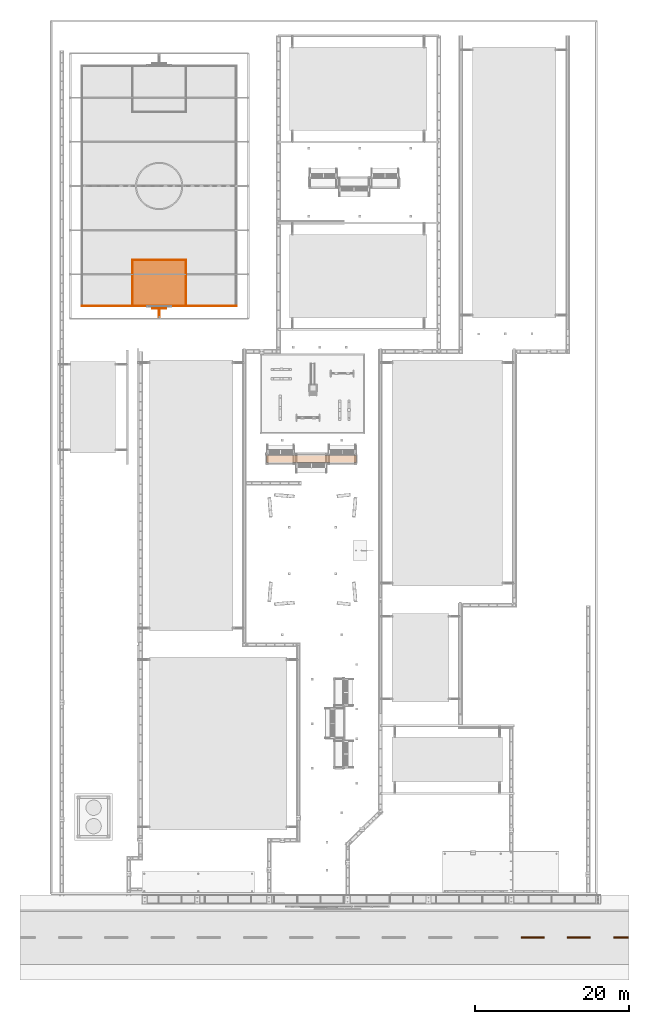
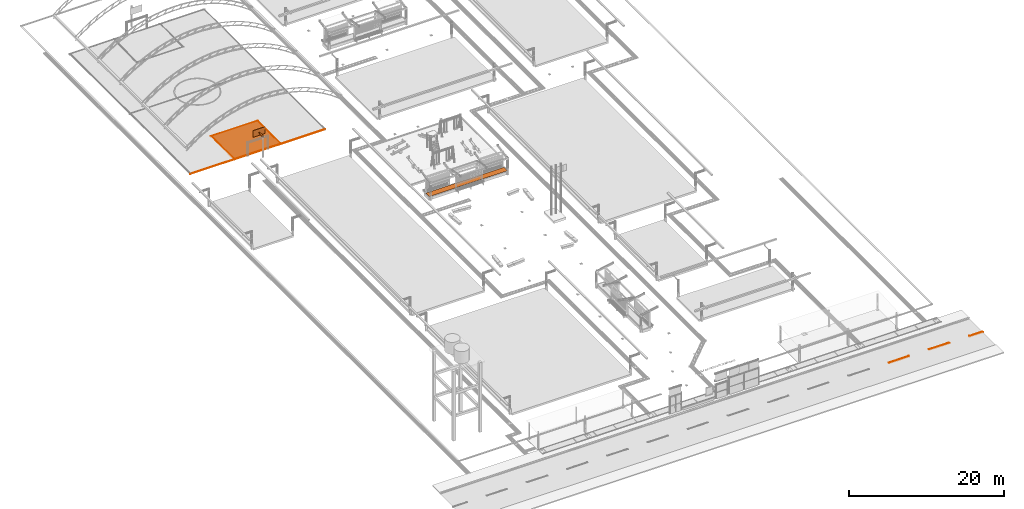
# One storey, part 88 of 90: 11 proxies.
"""IFC2X3 building model written with IfcOpenShell, lengths in metres."""

from ifc_helpers import new_model, si_unit, origin, origin_with_axes, place, context, subcontext, project, spatial, faceted_brep, element, save


model = new_model("IFC2X3")

# Units and contexts
model_context = context("Model", 3, precision=1e-05, world=origin_with_axes())
body_context = subcontext(model_context, "Body", "Model", "MODEL_VIEW")
ifc_project = project(units=[si_unit("LENGTHUNIT", "METRE"), si_unit("AREAUNIT", "SQUARE_METRE"), si_unit("VOLUMEUNIT", "CUBIC_METRE"), si_unit("PLANEANGLEUNIT", "RADIAN")], contexts=[model_context])

# Site, building, storey
site_placement = place(None, origin_with_axes())
site = spatial("IfcSite", under=ifc_project, at=site_placement, Name="Predio Los Mangos - Morales, San Martín", CompositionType="ELEMENT")
building_placement = place(site_placement, origin())
building = spatial("IfcBuilding", under=site, at=building_placement, Name="Hogar de Refugio Temporal", CompositionType="ELEMENT")
storey_placement = place(building_placement, origin())
storey = spatial("IfcBuildingStorey", under=building, at=storey_placement, Name="NIVEL 1 (NPT +0.00)", CompositionType="ELEMENT", Elevation=0.0)

# Proxies
proxy_1_placement = place(storey_placement, origin())
element("IfcBuildingElementProxy", 1, at=proxy_1_placement, inside=storey, Name="linea_carril", ObjectType="Losa deportiva y vía", context=body_context, shape_type="Brep", body=[
    faceted_brep([(62.0, 12.22, 0.02), (62.0, 12.38, 0.02), (65.0, 12.38, 0.02), (65.0, 12.22, 0.02), (62.0, 12.22, 0.025), (65.0, 12.22, 0.025), (65.0, 12.38, 0.025), (62.0, 12.38, 0.025)], [[[0, 1, 2, 3]], [[4, 5, 6, 7]], [[0, 3, 5, 4]], [[3, 2, 6, 5]], [[2, 1, 7, 6]], [[1, 0, 4, 7]]]),
])
proxy_2_placement = place(storey_placement, origin())
element("IfcBuildingElementProxy", 2, at=proxy_2_placement, inside=storey, Name="linea_carril", ObjectType="Losa deportiva y vía", context=body_context, shape_type="Brep", body=[
    faceted_brep([(68.0, 12.22, 0.02), (68.0, 12.38, 0.02), (71.0, 12.38, 0.02), (71.0, 12.22, 0.02), (68.0, 12.22, 0.025), (71.0, 12.22, 0.025), (71.0, 12.38, 0.025), (68.0, 12.38, 0.025)], [[[0, 1, 2, 3]], [[4, 5, 6, 7]], [[0, 3, 5, 4]], [[3, 2, 6, 5]], [[2, 1, 7, 6]], [[1, 0, 4, 7]]]),
])
proxy_3_placement = place(storey_placement, origin())
element("IfcBuildingElementProxy", 3, at=proxy_3_placement, inside=storey, Name="linea_carril", ObjectType="Losa deportiva y vía", context=body_context, shape_type="Brep", body=[
    faceted_brep([(74.0, 12.22, 0.02), (74.0, 12.38, 0.02), (76.0, 12.38, 0.02), (76.0, 12.22, 0.02), (74.0, 12.22, 0.025), (76.0, 12.22, 0.025), (76.0, 12.38, 0.025), (74.0, 12.38, 0.025)], [[[0, 1, 2, 3]], [[4, 5, 6, 7]], [[0, 3, 5, 4]], [[3, 2, 6, 5]], [[2, 1, 7, 6]], [[1, 0, 4, 7]]]),
])
proxy_4_placement = place(storey_placement, origin())
element("IfcBuildingElementProxy", 4, at=proxy_4_placement, inside=storey, Name="linea_cancha", ObjectType="Losa deportiva y vía", context=body_context, shape_type="Brep", body=[
    faceted_brep([(5.0, 94.2, 0.125), (5.0, 94.28, 0.125), (25.1, 94.28, 0.125), (25.1, 94.2, 0.125), (5.0, 94.2, 0.127), (25.1, 94.2, 0.127), (25.1, 94.28, 0.127), (5.0, 94.28, 0.127)], [[[0, 1, 2, 3]], [[4, 5, 6, 7]], [[0, 3, 5, 4]], [[3, 2, 6, 5]], [[2, 1, 7, 6]], [[1, 0, 4, 7]]]),
])
proxy_5_placement = place(storey_placement, origin())
element("IfcBuildingElementProxy", 5, at=proxy_5_placement, inside=storey, Name="area", ObjectType="Losa deportiva y vía", context=body_context, shape_type="Brep", body=[
    faceted_brep([(11.55, 94.2, 0.125), (11.55, 100.2, 0.125), (18.55, 100.2, 0.125), (18.55, 94.2, 0.125), (11.55, 94.2, 0.127), (18.55, 94.2, 0.127), (18.55, 100.2, 0.127), (11.55, 100.2, 0.127)], [[[0, 1, 2, 3]], [[4, 5, 6, 7]], [[0, 3, 5, 4]], [[3, 2, 6, 5]], [[2, 1, 7, 6]], [[1, 0, 4, 7]]]),
])
proxy_6_placement = place(storey_placement, origin())
element("IfcBuildingElementProxy", 6, at=proxy_6_placement, inside=storey, Name="linea_area", ObjectType="Losa deportiva y vía", context=body_context, shape_type="Brep", body=[
    faceted_brep([(11.55, 94.2, 0.127), (11.55, 100.2, 0.127), (11.63, 100.2, 0.127), (11.63, 94.2, 0.127), (11.55, 94.2, 0.129), (11.63, 94.2, 0.129), (11.63, 100.2, 0.129), (11.55, 100.2, 0.129)], [[[0, 1, 2, 3]], [[4, 5, 6, 7]], [[0, 3, 5, 4]], [[3, 2, 6, 5]], [[2, 1, 7, 6]], [[1, 0, 4, 7]]]),
])
proxy_7_placement = place(storey_placement, origin())
element("IfcBuildingElementProxy", 7, at=proxy_7_placement, inside=storey, Name="linea_area", ObjectType="Losa deportiva y vía", context=body_context, shape_type="Brep", body=[
    faceted_brep([(18.47, 94.2, 0.127), (18.47, 100.2, 0.127), (18.55, 100.2, 0.127), (18.55, 94.2, 0.127), (18.47, 94.2, 0.129), (18.55, 94.2, 0.129), (18.55, 100.2, 0.129), (18.47, 100.2, 0.129)], [[[0, 1, 2, 3]], [[4, 5, 6, 7]], [[0, 3, 5, 4]], [[3, 2, 6, 5]], [[2, 1, 7, 6]], [[1, 0, 4, 7]]]),
])
proxy_8_placement = place(storey_placement, origin())
element("IfcBuildingElementProxy", 8, at=proxy_8_placement, inside=storey, Name="linea_area", ObjectType="Losa deportiva y vía", context=body_context, shape_type="Brep", body=[
    faceted_brep([(11.55, 100.16, 0.127), (11.55, 100.24, 0.127), (18.55, 100.24, 0.127), (18.55, 100.16, 0.127), (11.55, 100.16, 0.129), (18.55, 100.16, 0.129), (18.55, 100.24, 0.129), (11.55, 100.24, 0.129)], [[[0, 1, 2, 3]], [[4, 5, 6, 7]], [[0, 3, 5, 4]], [[3, 2, 6, 5]], [[2, 1, 7, 6]], [[1, 0, 4, 7]]]),
])
proxy_9_placement = place(storey_placement, origin())
element("IfcBuildingElementProxy", 9, at=proxy_9_placement, inside=storey, Name="tablero", ObjectType="Losa deportiva y vía", context=body_context, shape_type="Brep", body=[
    faceted_brep([(14.15, 93.88, 2.9), (14.15, 93.92, 2.9), (15.95, 93.92, 2.9), (15.95, 93.88, 2.9), (14.15, 93.88, 3.95), (15.95, 93.88, 3.95), (15.95, 93.92, 3.95), (14.15, 93.92, 3.95)], [[[0, 1, 2, 3]], [[4, 5, 6, 7]], [[0, 3, 5, 4]], [[3, 2, 6, 5]], [[2, 1, 7, 6]], [[1, 0, 4, 7]]]),
])
proxy_10_placement = place(storey_placement, origin())
element("IfcBuildingElementProxy", 10, at=proxy_10_placement, inside=storey, Name="brazo", ObjectType="Losa deportiva y vía", context=body_context, shape_type="Brep", body=[
    faceted_brep([(15.0, 92.8, 3.3), (15.0, 93.9, 3.3), (15.1, 93.9, 3.3), (15.1, 92.8, 3.3), (15.0, 92.8, 3.4), (15.1, 92.8, 3.4), (15.1, 93.9, 3.4), (15.0, 93.9, 3.4)], [[[0, 1, 2, 3]], [[4, 5, 6, 7]], [[0, 3, 5, 4]], [[3, 2, 6, 5]], [[2, 1, 7, 6]], [[1, 0, 4, 7]]]),
])
proxy_11_placement = place(storey_placement, origin())
element("IfcBuildingElementProxy", 11, at=proxy_11_placement, inside=storey, Name="pasto_jardinera_1", ObjectType="Área verde", context=body_context, shape_type="Brep", body=[
    faceted_brep([(28.955, 74.85, 0.455), (28.955, 73.95, 0.455), (40.655, 73.95, 0.455), (40.655, 74.85, 0.455), (28.955, 74.85, 0.435), (28.955, 73.95, 0.435), (40.655, 74.85, 0.435), (40.655, 73.95, 0.435)], [[[0, 1, 2, 3]], [[1, 0, 4, 5]], [[4, 6, 7, 5]], [[0, 3, 6, 4]], [[3, 2, 7, 6]], [[2, 1, 5, 7]]]),
])

save(model, "model.ifc")
